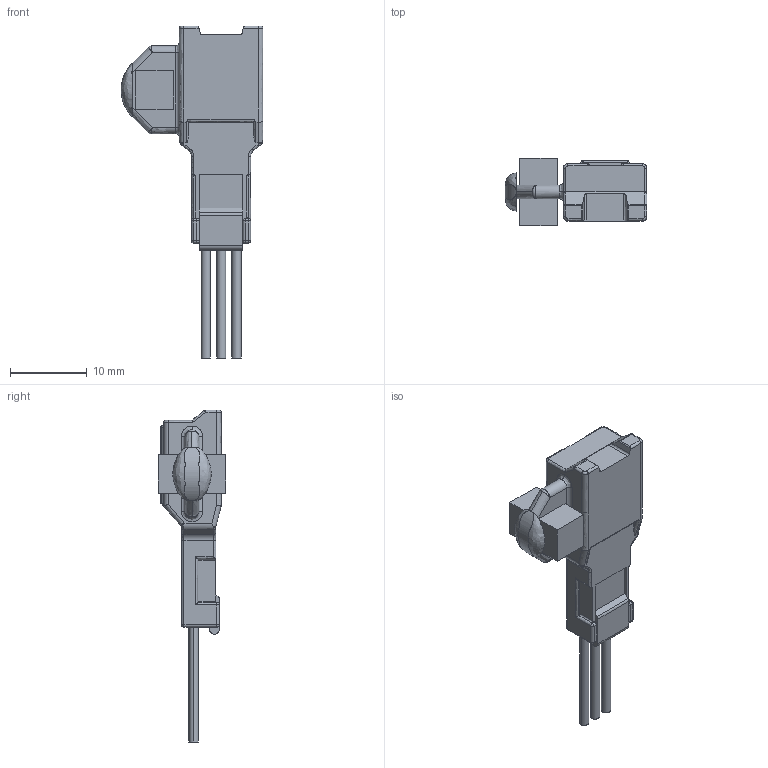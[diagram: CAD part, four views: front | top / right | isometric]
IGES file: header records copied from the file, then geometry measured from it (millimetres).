
Start section: SolidWorks IGES file using analytic representation for surfaces
Global section: file name: C:\Users\08803\Desktop\PDM\ISH全シリーズモデル(STEP)2017.2.6時点\中継\3P\ISH 3P INLINE MALE CONNECTOR.IGS; native system: SolidWorks 2017; preprocessor: SolidWorks 2017; author: 08803; date: 180822.090542; units: millimetre
Bounding box: 18.5 x 8.8 x 43.35 mm (x, y, z)
Surface area: 1507.2 mm2 (no closed solid volume)
Topology: 0 solids, 0 shells, 262 faces, 2022 edges, 2001 vertices
Faces by surface type: bspline 147, revolution 115
